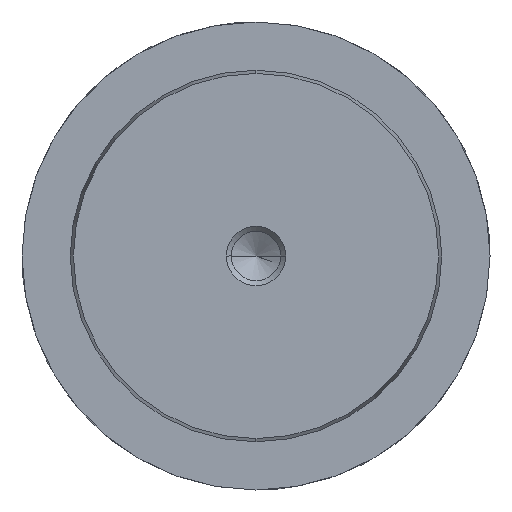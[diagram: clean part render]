
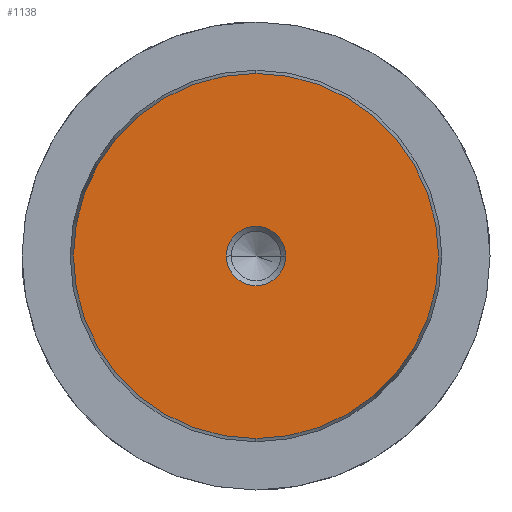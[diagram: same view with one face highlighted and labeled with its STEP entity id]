
A CAD part, left-side view. The second image highlights one B-rep face of the part: STEP entity #1138.
In plain terms, the highlighted planar face has unit normal (-1, 0, 0).
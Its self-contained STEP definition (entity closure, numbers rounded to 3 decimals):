
#1052=CARTESIAN_POINT('Vertex',(0.,0.,-24.578)) ;
#1055=CARTESIAN_POINT('Axis2P3D Location',(0.,0.,0.)) ;
#1059=CARTESIAN_POINT('Vertex',(0.,24.578,0.)) ;
#1062=CARTESIAN_POINT('Axis2P3D Location',(0.,0.,0.)) ;
#1066=CARTESIAN_POINT('Vertex',(0.,0.,24.578)) ;
#1088=CARTESIAN_POINT('Axis2P3D Location',(0.,0.,0.)) ;
#1092=CARTESIAN_POINT('Vertex',(0.,-24.578,0.)) ;
#1095=CARTESIAN_POINT('Axis2P3D Location',(0.,0.,0.)) ;
#1109=CARTESIAN_POINT('Axis2P3D Location',(0.,0.,0.)) ;
#1120=CARTESIAN_POINT('Axis2P3D Location',(0.,0.,0.)) ;
#1124=CARTESIAN_POINT('Vertex',(0.,4.,0.)) ;
#1126=CARTESIAN_POINT('Vertex',(0.,-4.,0.)) ;
#1129=CARTESIAN_POINT('Axis2P3D Location',(0.,0.,0.)) ;
#1056=DIRECTION('Axis2P3D Direction',(1.,-0.,0.)) ;
#1063=DIRECTION('Axis2P3D Direction',(1.,-0.,0.)) ;
#1089=DIRECTION('Axis2P3D Direction',(1.,0.,-0.)) ;
#1096=DIRECTION('Axis2P3D Direction',(1.,0.,-0.)) ;
#1110=DIRECTION('Axis2P3D Direction',(1.,0.,-0.)) ;
#1111=DIRECTION('Axis2P3D XDirection',(-0.,0.,-1.)) ;
#1121=DIRECTION('Axis2P3D Direction',(1.,0.,-0.)) ;
#1130=DIRECTION('Axis2P3D Direction',(1.,0.,-0.)) ;
#1057=AXIS2_PLACEMENT_3D('Circle Axis2P3D',#1055,#1056,$) ;
#1064=AXIS2_PLACEMENT_3D('Circle Axis2P3D',#1062,#1063,$) ;
#1090=AXIS2_PLACEMENT_3D('Circle Axis2P3D',#1088,#1089,$) ;
#1097=AXIS2_PLACEMENT_3D('Circle Axis2P3D',#1095,#1096,$) ;
#1112=AXIS2_PLACEMENT_3D('Plane Axis2P3D',#1109,#1110,#1111) ;
#1122=AXIS2_PLACEMENT_3D('Circle Axis2P3D',#1120,#1121,$) ;
#1131=AXIS2_PLACEMENT_3D('Circle Axis2P3D',#1129,#1130,$) ;
#1115=ORIENTED_EDGE('',*,*,#1061,.F.) ;
#1116=ORIENTED_EDGE('',*,*,#1099,.F.) ;
#1117=ORIENTED_EDGE('',*,*,#1094,.F.) ;
#1118=ORIENTED_EDGE('',*,*,#1068,.F.) ;
#1135=ORIENTED_EDGE('',*,*,#1128,.T.) ;
#1136=ORIENTED_EDGE('',*,*,#1133,.T.) ;
#1137=FACE_BOUND('',#1134,.T.) ;
#1138=ADVANCED_FACE('719-50x224',(#1119,#1137),#1113,.F.) ;
#1058=CIRCLE('generated circle',#1057,24.578) ;
#1065=CIRCLE('generated circle',#1064,24.578) ;
#1091=CIRCLE('generated circle',#1090,24.578) ;
#1098=CIRCLE('generated circle',#1097,24.578) ;
#1123=CIRCLE('generated circle',#1122,4.) ;
#1132=CIRCLE('generated circle',#1131,4.) ;
#1061=EDGE_CURVE('',#1053,#1060,#1058,.T.) ;
#1068=EDGE_CURVE('',#1060,#1067,#1065,.T.) ;
#1094=EDGE_CURVE('',#1067,#1093,#1091,.T.) ;
#1099=EDGE_CURVE('',#1093,#1053,#1098,.T.) ;
#1128=EDGE_CURVE('',#1125,#1127,#1123,.T.) ;
#1133=EDGE_CURVE('',#1127,#1125,#1132,.T.) ;
#1114=EDGE_LOOP('',(#1115,#1116,#1117,#1118)) ;
#1134=EDGE_LOOP('',(#1135,#1136)) ;
#1119=FACE_OUTER_BOUND('',#1114,.T.) ;
#1113=PLANE('Plane',#1112) ;
#1053=VERTEX_POINT('',#1052) ;
#1060=VERTEX_POINT('',#1059) ;
#1067=VERTEX_POINT('',#1066) ;
#1093=VERTEX_POINT('',#1092) ;
#1125=VERTEX_POINT('',#1124) ;
#1127=VERTEX_POINT('',#1126) ;
